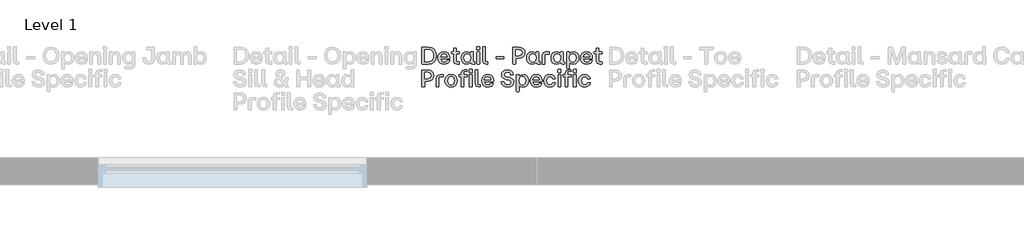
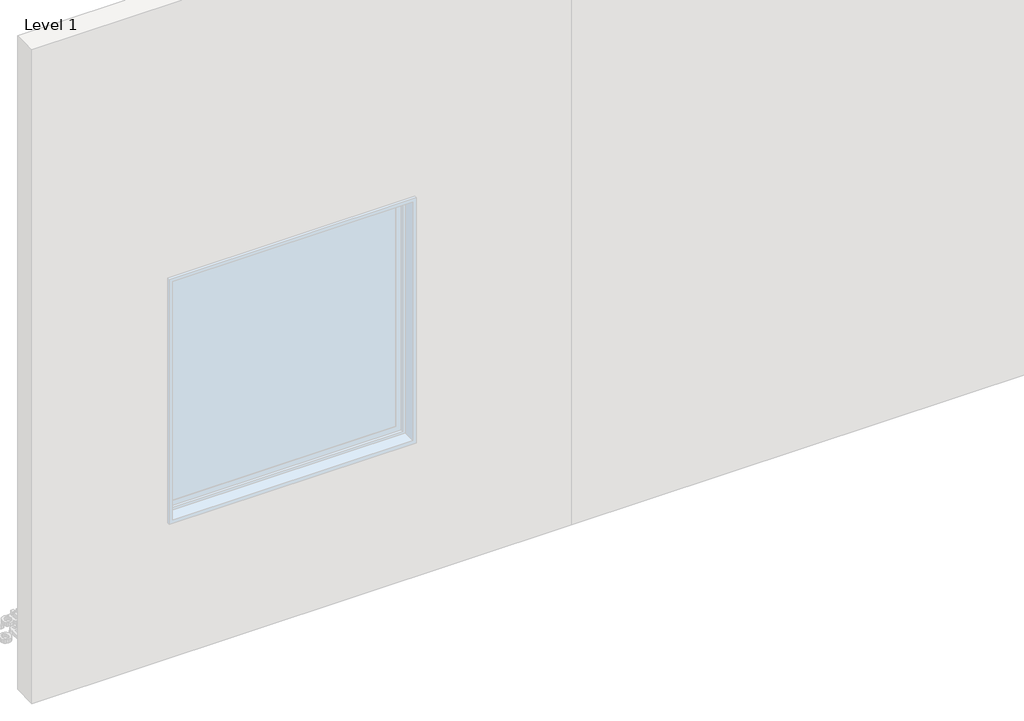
# One storey, part 48 of 64: 1 proxy.
"""IFC4 building model written with IfcOpenShell, lengths in millimetres."""

from ifc_helpers import new_model, si_unit, origin, origin_with_axes, place, context, project, spatial, polyline, outline, extrude, element, save

model = new_model("IFC4")

# Units and contexts
model_context = context("Model", 3, world=origin())
ifc_project = project(units=[si_unit("LENGTHUNIT", "METRE", prefix="MILLI")], contexts=[model_context])

# Site, building, storey
site = spatial("IfcSite", under=ifc_project)
building = spatial("IfcBuilding", under=site)
storey = spatial("IfcBuildingStorey", under=building, Name="Level 1", Elevation=0.0)

# Proxy
placement = place(None, origin())
element("IfcBuildingElementProxy", 1, Name="90mm", ObjectType="90mm", at=placement, inside=storey, context=model_context, shape_type="SweptSolid", body=[
    extrude(outline(polyline([(16110.2926176, -1500.0), (16108.9872124, -1498.7448027), (16108.9872124, -1411.3077612), (16142.5511873, -1410.002356), (16160.5475781, -1413.0054155), (16174.1193986, -1422.0145938), (16182.63905, -1436.3583606), (16185.4789338, -1455.3651852), (16182.648464, -1474.2025582), (16174.1570545, -1488.2890095), (16160.594648, -1497.0722524), (16142.5511873, -1500.0), (16110.2926176, -1500.0)]), holes=[polyline([(16123.7985402, -1487.3727155), (16141.6725492, -1487.3727155), (16153.8950326, -1485.311054), (16162.9481429, -1479.1260695), (16168.5494607, -1469.0625254), (16170.4165666, -1455.3651852), (16168.5431847, -1441.5109454), (16162.923039, -1431.1775339), (16153.8636527, -1424.7477859), (16141.6725492, -1422.6045366), (16123.7985402, -1422.6045366), (16123.7985402, -1487.3727155)])]), origin_with_axes(), (0.0, 0.0, 1.0), 20.0),
    extrude(outline(polyline([(16227.628458, -1500.7531184), (16214.0409476, -1498.4843493), (16203.5035666, -1491.6780421), (16196.7443293, -1481.0622112), (16194.4912502, -1467.3648711), (16196.7349153, -1453.5012173), (16203.4659107, -1442.7881086), (16213.9938777, -1435.9347315), (16227.628458, -1433.6502725), (16240.1584647, -1435.9033516), (16249.7324819, -1442.6625889), (16255.8044987, -1453.3129377), (16257.8285043, -1467.2393514), (16257.8285043, -1470.6785919), (16256.573307, -1472.009101), (16209.1268503, -1472.009101), (16214.6497183, -1484.6865934), (16227.628458, -1489.2053035), (16238.0465953, -1486.9082925), (16243.4439436, -1480.4691305), (16244.8246606, -1479.4147648), (16256.1967478, -1479.4147648), (16254.1633282, -1488.7314665), (16247.8120301, -1495.1925945), (16238.8248176, -1499.3629874), (16227.628458, -1500.7531184)]), holes=[polyline([(16209.2523701, -1461.5909637), (16243.8205028, -1461.5909637), (16239.0633051, -1449.6289337), (16227.628458, -1445.2733992), (16214.8631018, -1449.4155502), (16209.2523701, -1461.5909637)])]), origin_with_axes(), (0.0, 0.0, 1.0), 20.0),
    extrude(outline(polyline([(16296.6140998, -1500.0), (16282.731618, -1495.2302504), (16277.9618684, -1481.3477686), (16277.9618684, -1445.7754781), (16266.7906127, -1445.7754781), (16265.4852076, -1435.7339), (16266.7906127, -1434.4787027), (16277.9618684, -1434.4787027), (16277.9618684, -1416.45407), (16279.2170657, -1415.1486648), (16290.9657121, -1415.1486648), (16292.2209094, -1416.45407), (16292.2209094, -1434.4787027), (16308.0363949, -1434.4787027), (16309.3418001, -1435.7339), (16309.3418001, -1444.444969), (16292.2209094, -1445.7754781), (16292.2209094, -1488.7032246), (16308.0363949, -1488.7032246), (16309.3418001, -1489.9584219), (16309.3418001, -1498.7448027), (16308.0363949, -1500.0), (16296.6140998, -1500.0)])), origin_with_axes(), (0.0, 0.0, 1.0), 20.0),
    extrude(outline(polyline([(16347.2738615, -1500.7531184), (16335.3243835, -1498.4843493), (16326.0861316, -1491.6780421), (16320.1741525, -1481.0622112), (16318.2034928, -1467.3648711), (16320.1741525, -1453.5325972), (16326.0861316, -1442.8132125), (16335.3243835, -1435.9410075), (16347.2738615, -1433.6502725), (16359.1856835, -1436.5372262), (16368.160344, -1444.444969), (16368.7377347, -1435.7339), (16369.992932, -1434.4787027), (16381.6662665, -1434.4787027), (16382.9716717, -1435.7339), (16382.9716717, -1488.7032246), (16390.0760882, -1488.7032246), (16391.3312855, -1489.9584219), (16391.3312855, -1498.7448027), (16390.0760882, -1500.0), (16380.536589, -1500.0), (16372.1581473, -1497.6465051), (16369.3653333, -1490.5860205), (16359.7254183, -1497.8661646), (16347.2738615, -1500.7531184)]), holes=[polyline([(16332.7135732, -1467.3648711), (16337.6716024, -1483.3686362), (16343.5365116, -1487.7461367), (16351.2151809, -1489.2053035), (16358.7714684, -1487.7524127), (16364.470064, -1483.3937402), (16369.2398136, -1467.3648711), (16364.4324081, -1451.1728263), (16358.7243985, -1446.748256), (16351.2151809, -1445.2733992), (16343.5365116, -1446.748256), (16337.6716024, -1451.1728263), (16332.7135732, -1467.3648711)])]), origin_with_axes(), (0.0, 0.0, 1.0), 20.0),
    extrude(outline(polyline([(16403.6824266, -1500.0), (16402.3770214, -1498.7448027), (16402.3770214, -1435.7339), (16403.6824266, -1434.4787027), (16415.3557612, -1434.4787027), (16416.6109584, -1435.7339), (16416.6109584, -1498.7448027), (16415.3557612, -1500.0), (16403.6824266, -1500.0)])), origin_with_axes(), (0.0, 0.0, 1.0), 20.0),
    extrude(outline(polyline([(16401.3728636, -1421.8514182), (16401.3728636, -1407.9940404), (16402.6280609, -1406.6635313), (16416.4854387, -1406.6635313), (16417.8159478, -1421.8514182), (16416.4854387, -1423.1066155), (16402.6280609, -1423.1066155), (16401.3728636, -1421.8514182)])), origin_with_axes(), (0.0, 0.0, 1.0), 20.0),
    extrude(outline(polyline([(16451.5305464, -1500.0), (16437.6731686, -1495.2302504), (16432.903419, -1481.3477686), (16432.903419, -1408.7471587), (16445.8821587, -1407.4166496), (16447.137356, -1408.7471587), (16447.137356, -1488.7032246), (16459.1370418, -1488.7032246), (16460.3922391, -1489.9584219), (16460.3922391, -1498.7448027), (16459.1370418, -1500.0), (16451.5305464, -1500.0)])), origin_with_axes(), (0.0, 0.0, 1.0), 20.0),
    extrude(outline(polyline([(16505.1776775, -1472.887739), (16503.9224803, -1471.5572299), (16503.9224803, -1461.5909637), (16505.1776775, -1460.2604546), (16543.7875455, -1460.2604546), (16545.0427427, -1461.5909637), (16545.0427427, -1471.5572299), (16543.7875455, -1472.887739), (16505.1776775, -1472.887739)])), origin_with_axes(), (0.0, 0.0, 1.0), 20.0),
    extrude(outline(polyline([(16595.5016728, -1500.0), (16594.1962677, -1498.7448027), (16594.1962677, -1411.3077612), (16625.3251599, -1410.002356), (16639.2264696, -1411.9008419), (16649.5504671, -1417.5962995), (16655.9519732, -1426.7906194), (16658.0858085, -1439.1856924), (16655.9519732, -1451.5807655), (16649.5504671, -1460.7750854), (16639.2264696, -1466.470543), (16625.3251599, -1468.3690289), (16609.0075954, -1468.3690289), (16609.0075954, -1498.7448027), (16607.6770863, -1500.0), (16595.5016728, -1500.0)]), holes=[polyline([(16609.0075954, -1455.7417444), (16625.3251599, -1455.7417444), (16638.8059785, -1451.6623533), (16643.1991689, -1439.1731405), (16638.8059785, -1426.6839277), (16625.3251599, -1422.6045366), (16609.0075954, -1422.6045366), (16609.0075954, -1455.7417444)])]), origin_with_axes(), (0.0, 0.0, 1.0), 20.0),
    extrude(outline(polyline([(16695.9174541, -1500.7531184), (16683.9679762, -1498.4843493), (16674.7297243, -1491.6780421), (16668.8177452, -1481.0622112), (16666.8470854, -1467.3648711), (16668.8177452, -1453.5325972), (16674.7297243, -1442.8132125), (16683.9679762, -1435.9410075), (16695.9174541, -1433.6502725), (16707.8292762, -1436.5372262), (16716.8039366, -1444.444969), (16717.3813274, -1435.7339), (16718.6365247, -1434.4787027), (16730.3098592, -1434.4787027), (16731.6152644, -1435.7339), (16731.6152644, -1488.7032246), (16738.7196809, -1488.7032246), (16739.9748782, -1489.9584219), (16739.9748782, -1498.7448027), (16738.7196809, -1500.0), (16729.1801817, -1500.0), (16720.8017399, -1497.6465051), (16718.008926, -1490.5860205), (16708.369011, -1497.8661646), (16695.9174541, -1500.7531184)]), holes=[polyline([(16681.3571658, -1467.3648711), (16686.315195, -1483.3686362), (16692.1801043, -1487.7461367), (16699.8587735, -1489.2053035), (16707.4150611, -1487.7524127), (16713.1136567, -1483.3937402), (16717.8834063, -1467.3648711), (16713.0760008, -1451.1728263), (16707.3679912, -1446.748256), (16699.8587735, -1445.2733992), (16692.1801043, -1446.748256), (16686.315195, -1451.1728263), (16681.3571658, -1467.3648711)])]), origin_with_axes(), (0.0, 0.0, 1.0), 20.0),
    extrude(outline(polyline([(16751.6482128, -1500.0), (16750.3930155, -1498.7448027), (16750.3930155, -1453.0556222), (16755.1627651, -1439.2107964), (16769.0201429, -1434.4787027), (16787.2958151, -1434.4787027), (16788.5510124, -1435.7339), (16788.5510124, -1445.2733992), (16787.2958151, -1446.5285965), (16764.6269525, -1446.5285965), (16764.6269525, -1498.7448027), (16763.3717552, -1500.0), (16751.6482128, -1500.0)])), origin_with_axes(), (0.0, 0.0, 1.0), 20.0),
    extrude(outline(polyline([(16826.0563067, -1500.7531184), (16814.1068287, -1498.4843493), (16804.8685768, -1491.6780421), (16798.9565977, -1481.0622112), (16796.985938, -1467.3648711), (16798.9565977, -1453.5325972), (16804.8685768, -1442.8132125), (16814.1068287, -1435.9410075), (16826.0563067, -1433.6502725), (16837.9681288, -1436.5372262), (16846.9427892, -1444.444969), (16847.52018, -1435.7339), (16848.7753772, -1434.4787027), (16860.4487118, -1434.4787027), (16861.7541169, -1435.7339), (16861.7541169, -1488.7032246), (16868.8585335, -1488.7032246), (16870.1137307, -1489.9584219), (16870.1137307, -1498.7448027), (16868.8585335, -1500.0), (16859.3190343, -1500.0), (16850.9405925, -1497.6465051), (16848.1477786, -1490.5860205), (16838.5078636, -1497.8661646), (16826.0563067, -1500.7531184)]), holes=[polyline([(16811.4960184, -1467.3648711), (16816.4540476, -1483.3686362), (16822.3189568, -1487.7461367), (16829.9976261, -1489.2053035), (16837.5539137, -1487.7524127), (16843.2525092, -1483.3937402), (16848.0222589, -1467.3648711), (16843.2148533, -1451.1728263), (16837.5068438, -1446.748256), (16829.9976261, -1445.2733992), (16822.3189568, -1446.748256), (16816.4540476, -1451.1728263), (16811.4960184, -1467.3648711)])]), origin_with_axes(), (0.0, 0.0, 1.0), 20.0),
    extrude(outline(polyline([(16882.4648718, -1524.4010349), (16881.1594667, -1523.1458376), (16881.1594667, -1435.7339), (16882.4648718, -1434.4787027), (16893.5106078, -1434.4787027), (16894.7658051, -1435.7339), (16894.7658051, -1444.3194493), (16904.4057201, -1436.5372262), (16916.8572769, -1433.6502725), (16928.8067549, -1435.9253176), (16938.0450068, -1442.7504527), (16943.9569859, -1453.3913875), (16945.9276456, -1467.1138316), (16943.9569859, -1480.9210016), (16938.0450068, -1491.6152823), (16928.8067549, -1498.4686593), (16916.8572769, -1500.7531184), (16904.9454549, -1497.8661646), (16895.9707944, -1489.9584219), (16895.3934037, -1523.1458376), (16894.1382064, -1524.4010349), (16882.4648718, -1524.4010349)]), holes=[polyline([(16894.8913248, -1467.1138316), (16899.6987303, -1483.3058764), (16905.4067399, -1487.7304467), (16912.9159575, -1489.2053035), (16920.5946268, -1487.7304467), (16926.459536, -1483.3058764), (16931.4175652, -1467.1138316), (16926.459536, -1451.1100665), (16920.5946268, -1446.732566), (16912.9159575, -1445.2733992), (16905.35967, -1446.723152), (16899.6610744, -1451.0724106), (16894.8913248, -1467.1138316)])]), origin_with_axes(), (0.0, 0.0, 1.0), 20.0),
    extrude(outline(polyline([(16987.5750909, -1500.7531184), (16973.9875805, -1498.4843493), (16963.4501995, -1491.6780421), (16956.6909622, -1481.0622112), (16954.4378831, -1467.3648711), (16956.6815482, -1453.5012173), (16963.4125435, -1442.7881086), (16973.9405106, -1435.9347315), (16987.5750909, -1433.6502725), (17000.1050976, -1435.9033516), (17009.6791148, -1442.6625889), (17015.7511316, -1453.3129377), (17017.7751371, -1467.2393514), (17017.7751371, -1470.6785919), (17016.5199399, -1472.009101), (16969.0734832, -1472.009101), (16974.5963512, -1484.6865934), (16987.5750909, -1489.2053035), (16997.9932282, -1486.9082925), (17003.3905765, -1480.4691305), (17004.7712935, -1479.4147648), (17016.1433807, -1479.4147648), (17014.1099611, -1488.7314665), (17007.758663, -1495.1925945), (16998.7714505, -1499.3629874), (16987.5750909, -1500.7531184)]), holes=[polyline([(16969.1990029, -1461.5909637), (17003.7671357, -1461.5909637), (16999.009938, -1449.6289337), (16987.5750909, -1445.2733992), (16974.8097347, -1449.4155502), (16969.1990029, -1461.5909637)])]), origin_with_axes(), (0.0, 0.0, 1.0), 20.0),
    extrude(outline(polyline([(17056.5607327, -1500.0), (17042.6782509, -1495.2302504), (17037.9085013, -1481.3477686), (17037.9085013, -1445.7754781), (17026.7372456, -1445.7754781), (17025.4318405, -1435.7339), (17026.7372456, -1434.4787027), (17037.9085013, -1434.4787027), (17037.9085013, -1416.45407), (17039.1636986, -1415.1486648), (17050.912345, -1415.1486648), (17052.1675422, -1416.45407), (17052.1675422, -1434.4787027), (17067.9830278, -1434.4787027), (17069.288433, -1435.7339), (17069.288433, -1444.444969), (17052.1675422, -1445.7754781), (17052.1675422, -1488.7032246), (17067.9830278, -1488.7032246), (17069.288433, -1489.9584219), (17069.288433, -1498.7448027), (17067.9830278, -1500.0), (17056.5607327, -1500.0)])), origin_with_axes(), (0.0, 0.0, 1.0), 20.0),
    extrude(outline(polyline([(16110.2926176, -1622.13305), (16108.9872124, -1620.8778528), (16108.9872124, -1533.4408112), (16140.1161046, -1532.135406), (16154.0174144, -1534.0338919), (16164.3414119, -1539.7293495), (16170.7429179, -1548.9236695), (16172.8767533, -1561.3187425), (16170.7429179, -1573.7138155), (16164.3414119, -1582.9081354), (16154.0174144, -1588.603593), (16140.1161046, -1590.5020789), (16123.7985402, -1590.5020789), (16123.7985402, -1620.8778528), (16122.4680311, -1622.13305), (16110.2926176, -1622.13305)]), holes=[polyline([(16123.7985402, -1577.8747944), (16140.1161046, -1577.8747944), (16153.5969233, -1573.7954033), (16157.9901137, -1561.3061905), (16153.5969233, -1548.8169777), (16140.1161046, -1544.7375866), (16123.7985402, -1544.7375866), (16123.7985402, -1577.8747944)])]), origin_with_axes(), (0.0, 0.0, 1.0), 20.0),
    extrude(outline(polyline([(16186.1065325, -1622.13305), (16184.8513352, -1620.8778528), (16184.8513352, -1575.1886723), (16189.6210848, -1561.3438464), (16203.4784626, -1556.6117527), (16221.7541348, -1556.6117527), (16223.0093321, -1557.86695), (16223.0093321, -1567.4064492), (16221.7541348, -1568.6616465), (16199.0852722, -1568.6616465), (16199.0852722, -1620.8778528), (16197.8300749, -1622.13305), (16186.1065325, -1622.13305)])), origin_with_axes(), (0.0, 0.0, 1.0), 20.0),
    extrude(outline(polyline([(16264.2049064, -1622.8861684), (16250.9782652, -1620.5797434), (16240.519334, -1613.6604685), (16233.7130268, -1603.0069817), (16231.4442577, -1589.4979211), (16233.7193028, -1575.9009967), (16240.5444379, -1565.1345422), (16251.0096451, -1558.1211274), (16264.2049064, -1555.7833225), (16277.5570673, -1558.1211274), (16288.0913103, -1565.1345422), (16294.9352734, -1575.9009967), (16297.2165945, -1589.4979211), (16294.9352734, -1603.0069817), (16288.0913103, -1613.6604685), (16277.5570673, -1620.5797434), (16264.2049064, -1622.8861684)]), holes=[polyline([(16245.9543381, -1589.4979211), (16250.8119515, -1605.5267902), (16256.588997, -1609.8854627), (16264.2049064, -1611.3383535), (16271.9024036, -1609.8791867), (16277.7735888, -1605.5016862), (16282.731618, -1589.4979211), (16277.7986928, -1573.3058764), (16271.9337835, -1568.881306), (16264.2049064, -1567.4064492), (16256.588997, -1568.881306), (16250.8119515, -1573.3058764), (16245.9543381, -1589.4979211)])]), origin_with_axes(), (0.0, 0.0, 1.0), 20.0),
    extrude(outline(polyline([(16319.3833782, -1622.13305), (16318.1281809, -1620.8778528), (16318.1281809, -1567.9085281), (16306.9569253, -1567.9085281), (16305.6515201, -1557.86695), (16306.9569253, -1556.6117527), (16318.1281809, -1556.6117527), (16318.1281809, -1548.201931), (16322.8979305, -1534.3194493), (16336.7804123, -1529.5496997), (16348.2027074, -1529.5496997), (16349.5081126, -1539.5912778), (16332.3872219, -1540.9217869), (16332.3872219, -1556.6117527), (16348.2027074, -1556.6117527), (16349.5081126, -1557.86695), (16349.5081126, -1566.578019), (16332.3872219, -1567.9085281), (16332.3872219, -1620.8778528), (16331.1320246, -1622.13305), (16319.3833782, -1622.13305)])), origin_with_axes(), (0.0, 0.0, 1.0), 20.0),
    extrude(outline(polyline([(16361.3069669, -1543.9844682), (16361.3069669, -1530.1270904), (16362.5621642, -1528.7965813), (16376.4948538, -1528.7965813), (16377.7500511, -1530.1270904), (16377.7500511, -1543.9844682), (16376.4948538, -1545.2396655), (16362.5621642, -1545.2396655), (16361.3069669, -1543.9844682)])), origin_with_axes(), (0.0, 0.0, 1.0), 20.0),
    extrude(outline(polyline([(16362.3111247, -1620.8778528), (16362.3111247, -1557.86695), (16363.6416338, -1556.6117527), (16375.3149684, -1556.6117527), (16376.6203735, -1557.86695), (16376.6203735, -1620.8778528), (16375.3149684, -1622.13305), (16363.6416338, -1622.13305), (16362.3111247, -1620.8778528)])), origin_with_axes(), (0.0, 0.0, 1.0), 20.0),
    extrude(outline(polyline([(16411.3642339, -1622.13305), (16397.506856, -1617.3633004), (16392.7371064, -1603.4808186), (16392.7371064, -1530.8802088), (16405.7158462, -1529.5496997), (16406.9710434, -1530.8802088), (16406.9710434, -1610.8362746), (16418.9707293, -1610.8362746), (16420.2259266, -1612.0914719), (16420.2259266, -1620.8778528), (16418.9707293, -1622.13305), (16411.3642339, -1622.13305)])), origin_with_axes(), (0.0, 0.0, 1.0), 20.0),
    extrude(outline(polyline([(16460.5930707, -1622.8861684), (16447.0055602, -1620.6173993), (16436.4681792, -1613.8110921), (16429.7089419, -1603.1952613), (16427.4558628, -1589.4979211), (16429.6995279, -1575.6342673), (16436.4305233, -1564.9211586), (16446.9584903, -1558.0677815), (16460.5930707, -1555.7833225), (16473.1230774, -1558.0364016), (16482.6970945, -1564.7956389), (16488.7691113, -1575.4459877), (16490.7931169, -1589.3724014), (16490.7931169, -1592.8116419), (16489.5379196, -1594.142151), (16442.0914629, -1594.142151), (16447.6143309, -1606.8196434), (16460.5930707, -1611.3383535), (16471.011208, -1609.0413425), (16476.4085562, -1602.6021806), (16477.7892732, -1601.5478148), (16489.1613604, -1601.5478148), (16487.1279409, -1610.8645166), (16480.7766427, -1617.3256445), (16471.7894303, -1621.4960374), (16460.5930707, -1622.8861684)]), holes=[polyline([(16442.2169827, -1583.7240137), (16476.7851154, -1583.7240137), (16472.0279177, -1571.7619837), (16460.5930707, -1567.4064492), (16447.8277145, -1571.5486002), (16442.2169827, -1583.7240137)])]), origin_with_axes(), (0.0, 0.0, 1.0), 20.0),
    extrude(outline(polyline([(16566.8831752, -1622.8861684), (16553.1136611, -1621.0347524), (16542.4319324, -1615.4805045), (16535.1706162, -1606.5058441), (16531.6623399, -1594.3931904), (16544.917223, -1592.9371616), (16546.2226282, -1594.142151), (16552.4107507, -1606.6941236), (16566.8831752, -1610.5852352), (16579.3974919, -1607.007923), (16583.8785461, -1597.0793126), (16580.7782089, -1588.8326665), (16570.3977275, -1584.7281715), (16558.5235614, -1582.644544), (16547.5186193, -1579.3904451), (16539.6579465, -1574.0715467), (16534.9415427, -1566.6878488), (16533.3694082, -1557.2393514), (16535.3839998, -1546.397585), (16541.4277746, -1538.2231128), (16551.0802416, -1533.0924939), (16563.9209096, -1531.3822877), (16576.6548859, -1533.1144599), (16586.5897722, -1538.3109766), (16593.3803895, -1546.6643144), (16596.6815583, -1557.86695), (16583.501987, -1559.2978749), (16582.0710621, -1557.86695), (16576.2594987, -1547.1601173), (16563.9209096, -1543.7334288), (16552.1597112, -1546.8714219), (16548.1054241, -1556.034362), (16551.7203922, -1564.732879), (16563.0422715, -1569.2892451), (16574.8411258, -1571.3477686), (16585.6609263, -1574.5171417), (16593.0163822, -1579.6069666), (16597.2338451, -1586.9373187), (16598.639666, -1596.8282731), (16596.5277966, -1607.7422134), (16590.1921884, -1615.9825834), (16580.1411963, -1621.1602721), (16566.8831752, -1622.8861684)])), origin_with_axes(), (0.0, 0.0, 1.0), 20.0),
    extrude(outline(polyline([(16614.1539042, -1646.5340849), (16612.848499, -1645.2788876), (16612.848499, -1557.86695), (16614.1539042, -1556.6117527), (16625.1996401, -1556.6117527), (16626.4548374, -1557.86695), (16626.4548374, -1566.4524993), (16636.0947524, -1558.6702762), (16648.5463093, -1555.7833225), (16660.4957873, -1558.0583676), (16669.7340392, -1564.8835027), (16675.6460183, -1575.5244375), (16677.616678, -1589.2468816), (16675.6460183, -1603.0540516), (16669.7340392, -1613.7483323), (16660.4957873, -1620.6017094), (16648.5463093, -1622.8861684), (16636.6344872, -1619.9992147), (16627.6598268, -1612.0914719), (16627.082436, -1645.2788876), (16625.8272388, -1646.5340849), (16614.1539042, -1646.5340849)]), holes=[polyline([(16626.5803571, -1589.2468816), (16631.3877627, -1605.4389264), (16637.0957722, -1609.8634967), (16644.6049899, -1611.3383535), (16652.2836592, -1609.8634967), (16658.1485684, -1605.4389264), (16663.1065976, -1589.2468816), (16658.1485684, -1573.2431165), (16652.2836592, -1568.865616), (16644.6049899, -1567.4064492), (16637.0487023, -1568.856202), (16631.3501068, -1573.2054606), (16626.5803571, -1589.2468816)])]), origin_with_axes(), (0.0, 0.0, 1.0), 20.0),
    extrude(outline(polyline([(16719.2641233, -1622.8861684), (16705.6766129, -1620.6173993), (16695.1392318, -1613.8110921), (16688.3799945, -1603.1952613), (16686.1269155, -1589.4979211), (16688.3705806, -1575.6342673), (16695.1015759, -1564.9211586), (16705.629543, -1558.0677815), (16719.2641233, -1555.7833225), (16731.79413, -1558.0364016), (16741.3681471, -1564.7956389), (16747.4401639, -1575.4459877), (16749.4641695, -1589.3724014), (16749.4641695, -1592.8116419), (16748.2089722, -1594.142151), (16700.7625156, -1594.142151), (16706.2853836, -1606.8196434), (16719.2641233, -1611.3383535), (16729.6822606, -1609.0413425), (16735.0796088, -1602.6021806), (16736.4603258, -1601.5478148), (16747.8324131, -1601.5478148), (16745.7989935, -1610.8645166), (16739.4476953, -1617.3256445), (16730.4604829, -1621.4960374), (16719.2641233, -1622.8861684)]), holes=[polyline([(16700.8880353, -1583.7240137), (16735.456168, -1583.7240137), (16730.6989704, -1571.7619837), (16719.2641233, -1567.4064492), (16706.4987671, -1571.5486002), (16700.8880353, -1583.7240137)])]), origin_with_axes(), (0.0, 0.0, 1.0), 20.0),
    extrude(outline(polyline([(16791.4379661, -1622.8861684), (16777.9445955, -1620.6173993), (16767.4385944, -1613.8110921), (16760.6793571, -1603.1952613), (16758.426278, -1589.4979211), (16760.710737, -1575.9009967), (16767.5641141, -1565.1345422), (16778.1014951, -1558.1211274), (16791.4379661, -1555.7833225), (16802.4209422, -1557.3303532), (16811.3704987, -1561.971445), (16817.6841409, -1569.1543114), (16820.7593742, -1578.3266654), (16808.1320897, -1579.7073824), (16801.7054797, -1570.1678832), (16791.4379661, -1567.4064492), (16783.680847, -1568.881306), (16777.8316277, -1573.3058764), (16772.9363584, -1589.4979211), (16777.8567317, -1605.5644461), (16783.7122269, -1609.8948767), (16791.4379661, -1611.3383535), (16802.019279, -1608.7024393), (16807.3789714, -1600.1670979), (16808.7596884, -1598.9621085), (16820.1317756, -1598.9621085), (16818.12346, -1609.4712476), (16811.7470579, -1616.6980459), (16802.7033616, -1621.3391377), (16791.4379661, -1622.8861684)])), origin_with_axes(), (0.0, 0.0, 1.0), 20.0),
    extrude(outline(polyline([(16835.8719493, -1622.13305), (16834.5665442, -1620.8778528), (16834.5665442, -1557.86695), (16835.8719493, -1556.6117527), (16847.5452839, -1556.6117527), (16848.8004812, -1557.86695), (16848.8004812, -1620.8778528), (16847.5452839, -1622.13305), (16835.8719493, -1622.13305)])), origin_with_axes(), (0.0, 0.0, 1.0), 20.0),
    extrude(outline(polyline([(16833.5623863, -1543.9844682), (16833.5623863, -1530.1270904), (16834.8175836, -1528.7965813), (16848.6749614, -1528.7965813), (16850.0054705, -1543.9844682), (16848.6749614, -1545.2396655), (16834.8175836, -1545.2396655), (16833.5623863, -1543.9844682)])), origin_with_axes(), (0.0, 0.0, 1.0), 20.0),
    extrude(outline(polyline([(16873.678491, -1622.13305), (16872.4232937, -1620.8778528), (16872.4232937, -1567.9085281), (16861.252038, -1567.9085281), (16859.9466329, -1557.86695), (16861.252038, -1556.6117527), (16872.4232937, -1556.6117527), (16872.4232937, -1548.201931), (16877.1930433, -1534.3194493), (16891.0755251, -1529.5496997), (16902.4978202, -1529.5496997), (16903.8032254, -1539.5912778), (16886.6823347, -1540.9217869), (16886.6823347, -1556.6117527), (16902.4978202, -1556.6117527), (16903.8032254, -1557.86695), (16903.8032254, -1566.578019), (16886.6823347, -1567.9085281), (16886.6823347, -1620.8778528), (16885.4271374, -1622.13305), (16873.678491, -1622.13305)])), origin_with_axes(), (0.0, 0.0, 1.0), 20.0),
    extrude(outline(polyline([(16915.6020797, -1543.9844682), (16915.6020797, -1530.1270904), (16916.8572769, -1528.7965813), (16930.7899666, -1528.7965813), (16932.0451639, -1530.1270904), (16932.0451639, -1543.9844682), (16930.7899666, -1545.2396655), (16916.8572769, -1545.2396655), (16915.6020797, -1543.9844682)])), origin_with_axes(), (0.0, 0.0, 1.0), 20.0),
    extrude(outline(polyline([(16916.6062375, -1620.8778528), (16916.6062375, -1557.86695), (16917.9367466, -1556.6117527), (16929.6100812, -1556.6117527), (16930.9154863, -1557.86695), (16930.9154863, -1620.8778528), (16929.6100812, -1622.13305), (16917.9367466, -1622.13305), (16916.6062375, -1620.8778528)])), origin_with_axes(), (0.0, 0.0, 1.0), 20.0),
    extrude(outline(polyline([(16976.2030037, -1622.8861684), (16962.7096331, -1620.6173993), (16952.203632, -1613.8110921), (16945.4443947, -1603.1952613), (16943.1913156, -1589.4979211), (16945.4757746, -1575.9009967), (16952.3291517, -1565.1345422), (16962.8665327, -1558.1211274), (16976.2030037, -1555.7833225), (16987.1859798, -1557.3303532), (16996.1355363, -1561.971445), (17002.4491785, -1569.1543114), (17005.5244118, -1578.3266654), (16992.8971273, -1579.7073824), (16986.4705173, -1570.1678832), (16976.2030037, -1567.4064492), (16968.4458846, -1568.881306), (16962.5966653, -1573.3058764), (16957.701396, -1589.4979211), (16962.6217693, -1605.5644461), (16968.4772645, -1609.8948767), (16976.2030037, -1611.3383535), (16986.7843166, -1608.7024393), (16992.144009, -1600.1670979), (16993.524726, -1598.9621085), (17004.8968132, -1598.9621085), (17002.8884976, -1609.4712476), (16996.5120955, -1616.6980459), (16987.4683992, -1621.3391377), (16976.2030037, -1622.8861684)])), origin_with_axes(), (0.0, 0.0, 1.0), 20.0),
])

save(model, "model.ifc")
